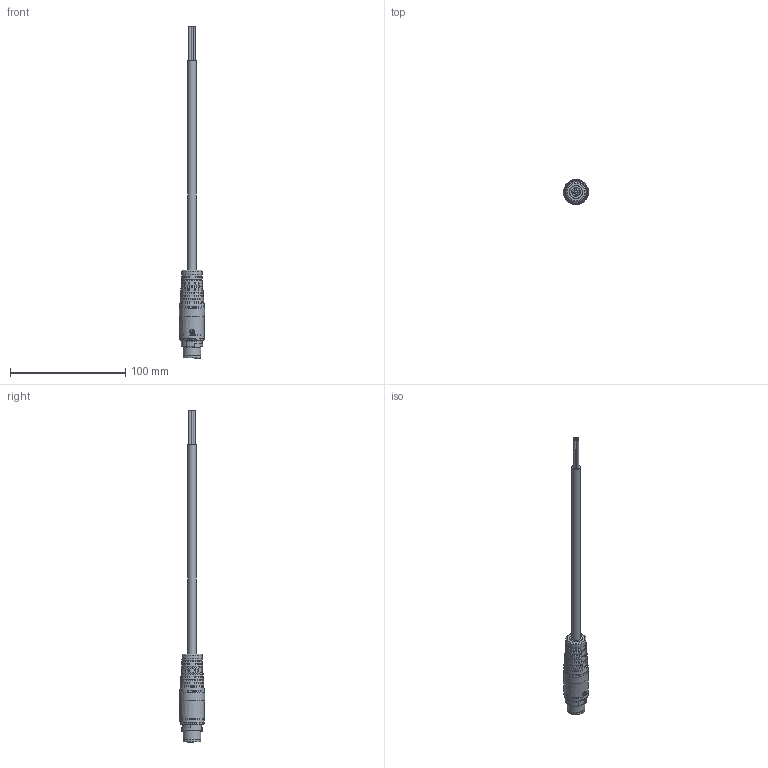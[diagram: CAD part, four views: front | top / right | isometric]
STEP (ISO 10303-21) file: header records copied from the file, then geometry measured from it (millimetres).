
FILE_DESCRIPTION (( 'STEP AP203' ), '1' );
FILE_NAME ('1138001_W-TEC_15K_STI_GLATT_STEP.STEP', '2023-08-31T14:00:37', ( '' ), ( '' ), 'SwSTEP 2.0', 'SolidWorks 2021', '' );
FILE_SCHEMA (( 'CONFIG_CONTROL_DESIGN' ));
Length unit declared in the file: millimetre
Products named in the file (1): 1138001_W-TEC_15K_STI_GLATT_STEP
Bounding box: 21.7 x 21.82 x 287.67 mm (x, y, z)
Surface area: 12732 mm2 (no closed solid volume)
Topology: 0 solids, 11 shells, 492 faces, 1719 edges, 1136 vertices
Faces by surface type: bspline 173, plane 142, cylinder 131, cone 26, torus 16, sphere 4
Full cylindrical faces by diameter (mm): 1.6 x3, 2 x3, 4 x1, 4.4 x3, 7.4 x1, 11.1 x2, 15.2 x1, 15.4 x1, 17.384 x1, 21.24 x1, 21.72 x1
Entity records: 25169 total; most frequent: CARTESIAN_POINT 13167, ORIENTED_EDGE 2676, DIRECTION 1826, EDGE_CURVE 1613, VERTEX_POINT 1112, B_SPLINE_CURVE_WITH_KNOTS 713, AXIS2_PLACEMENT_3D 663, EDGE_LOOP 564
